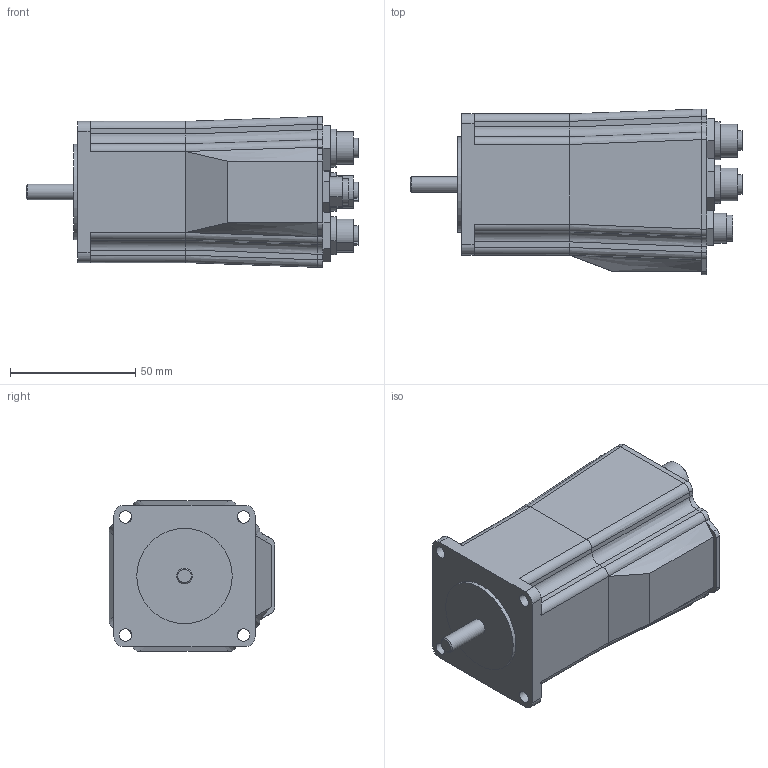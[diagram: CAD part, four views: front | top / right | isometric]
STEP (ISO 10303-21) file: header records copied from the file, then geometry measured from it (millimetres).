
FILE_DESCRIPTION( ( '' ), '1' );
FILE_NAME( 'T:/CAD/JVL/Opgave 2/LT0092-10GB.stp', '2007-10-09T08:33:07', ( 'Jørgen Vinther' ), ( 'www.stream-design.com' ), 'XStep 1.0', 'Solid edge V19', ' ' );
FILE_SCHEMA( ( 'CONFIG_CONTROL_DESIGN' ) );
Length unit declared in the file: millimetre
Products named in the file (1): 1
Bounding box: 132.6 x 66.2 x 60.2 mm (x, y, z)
Volume: 309306.6 mm3; surface area: 32390.3 mm2
Topology: 1 solids, 1 shells, 211 faces, 490 edges, 320 vertices
Faces by surface type: plane 127, cylinder 69, bspline 14, cone 1
Full cylindrical faces by diameter (mm): 1 x21, 5 x4, 6.35 x1, 8.5 x1, 10.4 x1, 15.2 x2, 38.1 x1
Entity records: 7538 total; most frequent: CARTESIAN_POINT 2917, ORIENTED_EDGE 900, DIRECTION 886, EDGE_CURVE 450, AXIS2_PLACEMENT_3D 313, VERTEX_POINT 312, EDGE_LOOP 290, LINE 260
